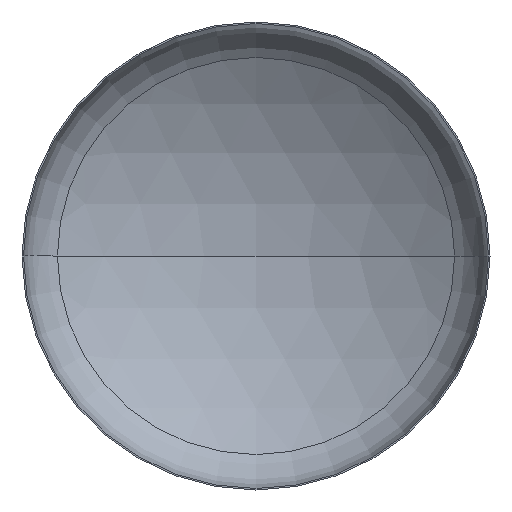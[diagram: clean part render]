
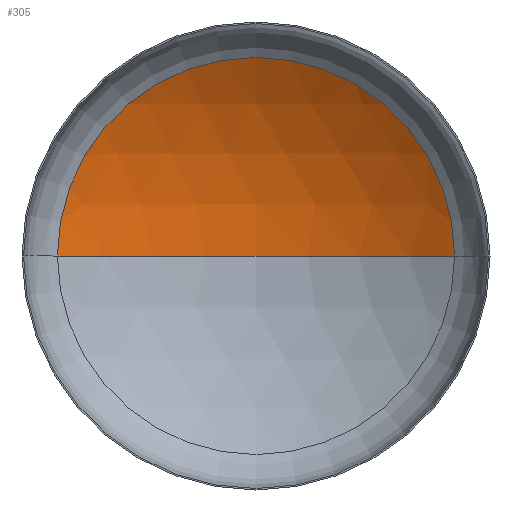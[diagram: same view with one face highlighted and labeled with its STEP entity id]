
A CAD part, front view. The second image highlights one B-rep face of the part: STEP entity #305.
In plain terms, the highlighted spherical face has radius 1760 mm.
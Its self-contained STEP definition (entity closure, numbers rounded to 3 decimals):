
#5 = CARTESIAN_POINT ( 'NONE',  ( 0., 313.259, 0. ) ) ;
#7 = FACE_OUTER_BOUND ( 'NONE', #352, .T. ) ;
#13 = AXIS2_PLACEMENT_3D ( 'NONE', #68, #72, #128 ) ;
#21 = VERTEX_POINT ( 'NONE', #364 ) ;
#32 = AXIS2_PLACEMENT_3D ( 'NONE', #333, #337, #89 ) ;
#37 = DIRECTION ( 'NONE',  ( 0., -1., 0. ) ) ;
#49 = AXIS2_PLACEMENT_3D ( 'NONE', #117, #111, #392 ) ;
#68 = CARTESIAN_POINT ( 'NONE',  ( 0., -1178.907, 0. ) ) ;
#69 = AXIS2_PLACEMENT_3D ( 'NONE', #5, #37, #274 ) ;
#72 = DIRECTION ( 'NONE',  ( 0., 0., -1. ) ) ;
#89 = DIRECTION ( 'NONE',  ( 1., 0., 0. ) ) ;
#93 = CIRCLE ( 'NONE', #13, 1760. ) ;
#111 = DIRECTION ( 'NONE',  ( 0., 0., -1. ) ) ;
#117 = CARTESIAN_POINT ( 'NONE',  ( 0., -1178.907, 0. ) ) ;
#128 = DIRECTION ( 'NONE',  ( -1., 0., 0. ) ) ;
#141 = CIRCLE ( 'NONE', #69, 933.296 ) ;
#167 = EDGE_CURVE ( 'NONE', #375, #21, #141, .T. ) ;
#187 = VERTEX_POINT ( 'NONE', #304 ) ;
#207 = SPHERICAL_SURFACE ( 'NONE', #49, 1760. ) ;
#208 = ORIENTED_EDGE ( 'NONE', *, *, #361, .T. ) ;
#274 = DIRECTION ( 'NONE',  ( 1., 0., 0. ) ) ;
#304 = CARTESIAN_POINT ( 'NONE',  ( 0., 581.093, 0. ) ) ;
#305 = ADVANCED_FACE ( 'NONE', ( #7 ), #207, .F. ) ;
#311 = CARTESIAN_POINT ( 'NONE',  ( 933.296, 313.259, 0. ) ) ;
#333 = CARTESIAN_POINT ( 'NONE',  ( 0., -1178.907, 0. ) ) ;
#337 = DIRECTION ( 'NONE',  ( 0., 0., 1. ) ) ;
#349 = EDGE_CURVE ( 'NONE', #187, #21, #354, .T. ) ;
#352 = EDGE_LOOP ( 'NONE', ( #366, #208, #377 ) ) ;
#354 = CIRCLE ( 'NONE', #32, 1760. ) ;
#361 = EDGE_CURVE ( 'NONE', #187, #375, #93, .T. ) ;
#364 = CARTESIAN_POINT ( 'NONE',  ( -933.296, 313.259, 0. ) ) ;
#366 = ORIENTED_EDGE ( 'NONE', *, *, #349, .F. ) ;
#375 = VERTEX_POINT ( 'NONE', #311 ) ;
#377 = ORIENTED_EDGE ( 'NONE', *, *, #167, .T. ) ;
#392 = DIRECTION ( 'NONE',  ( -1., 0., 0. ) ) ;
